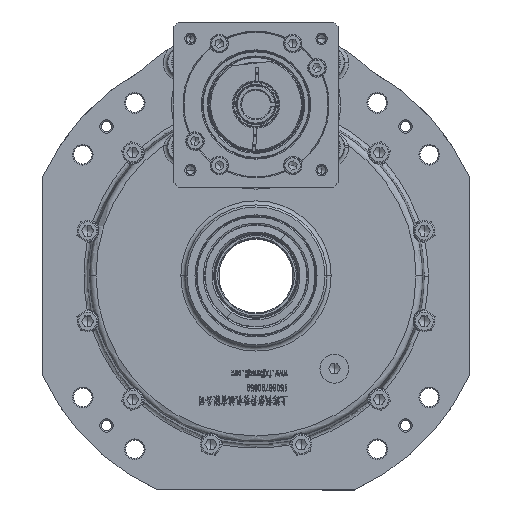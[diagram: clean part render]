
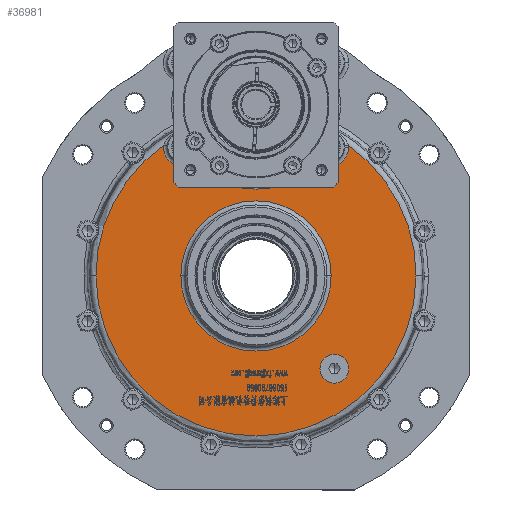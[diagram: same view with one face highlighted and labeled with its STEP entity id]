
A CAD part, top view. The second image highlights one B-rep face of the part: STEP entity #36981.
In plain terms, the highlighted planar face has unit normal (0, 0, 1).
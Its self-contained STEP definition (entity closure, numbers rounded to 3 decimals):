
#771 = EDGE_LOOP ( 'NONE', ( #45995, #67787 ) ) ;
#4049 = CARTESIAN_POINT ( 'NONE',  ( 30.553, -54.514, 45. ) ) ;
#5250 = CARTESIAN_POINT ( 'NONE',  ( -30.553, -54.514, 45. ) ) ;
#6674 = AXIS2_PLACEMENT_3D ( 'NONE', #54284, #71035, #33786 ) ;
#7417 = CARTESIAN_POINT ( 'NONE',  ( -29.185, -54.349, 45. ) ) ;
#7824 = AXIS2_PLACEMENT_3D ( 'NONE', #30683, #81595, #20760 ) ;
#10319 = CARTESIAN_POINT ( 'NONE',  ( 0., 0., 45. ) ) ;
#11256 = EDGE_CURVE ( 'NONE', #47929, #84857, #42282, .T. ) ;
#12171 = ORIENTED_EDGE ( 'NONE', *, *, #111836, .F. ) ;
#13889 = VERTEX_POINT ( 'NONE', #22547 ) ;
#15129 = DIRECTION ( 'NONE',  ( -1., 0., 0. ) ) ;
#15382 = CIRCLE ( 'NONE', #114674, 36.424 ) ;
#16288 = EDGE_CURVE ( 'NONE', #13889, #84018, #63792, .T. ) ;
#16468 = CARTESIAN_POINT ( 'NONE',  ( -29.972, -53.577, 45. ) ) ;
#17301 = DIRECTION ( 'NONE',  ( -0.119, -0.993, 0. ) ) ;
#18006 = CIRCLE ( 'NONE', #127917, 1.102 ) ;
#19890 = VERTEX_POINT ( 'NONE', #104744 ) ;
#20760 = DIRECTION ( 'NONE',  ( 0., 1., 0. ) ) ;
#22547 = CARTESIAN_POINT ( 'NONE',  ( 44.869, -63.316, 45. ) ) ;
#23753 = DIRECTION ( 'NONE',  ( 0., 1., 0. ) ) ;
#24396 = DIRECTION ( 'NONE',  ( 0., 0., -1. ) ) ;
#26179 = VERTEX_POINT ( 'NONE', #86575 ) ;
#26626 = DIRECTION ( 'NONE',  ( 0., 0., 1. ) ) ;
#28450 = CARTESIAN_POINT ( 'NONE',  ( 77.603, 0., 45. ) ) ;
#28459 = AXIS2_PLACEMENT_3D ( 'NONE', #109327, #26626, #107994 ) ;
#30683 = CARTESIAN_POINT ( 'NONE',  ( 0., 0., 45. ) ) ;
#31549 = AXIS2_PLACEMENT_3D ( 'NONE', #129824, #39242, #46536 ) ;
#32001 = ORIENTED_EDGE ( 'NONE', *, *, #91905, .F. ) ;
#33484 = DIRECTION ( 'NONE',  ( 1., 0., 0. ) ) ;
#33663 = VERTEX_POINT ( 'NONE', #48461 ) ;
#33786 = DIRECTION ( 'NONE',  ( 0.618, 0.786, 0. ) ) ;
#35022 = DIRECTION ( 'NONE',  ( 0., 0., 1. ) ) ;
#35454 = CARTESIAN_POINT ( 'NONE',  ( -77.603, 0., 45. ) ) ;
#36972 = CARTESIAN_POINT ( 'NONE',  ( 0., 0., 45. ) ) ;
#36981 = ADVANCED_FACE ( 'NONE', ( #72489, #92991, #70543 ), #60640, .F. ) ;
#39242 = DIRECTION ( 'NONE',  ( 0., 0., -1. ) ) ;
#40426 = AXIS2_PLACEMENT_3D ( 'NONE', #16468, #89233, #56849 ) ;
#41925 = CIRCLE ( 'NONE', #115862, 77.603 ) ;
#42282 = CIRCLE ( 'NONE', #52881, 5.5 ) ;
#43734 = ORIENTED_EDGE ( 'NONE', *, *, #115857, .F. ) ;
#44822 = EDGE_CURVE ( 'NONE', #84018, #19890, #18006, .T. ) ;
#45995 = ORIENTED_EDGE ( 'NONE', *, *, #102284, .T. ) ;
#46176 = ORIENTED_EDGE ( 'NONE', *, *, #44822, .F. ) ;
#46536 = DIRECTION ( 'NONE',  ( 1., 0., 0. ) ) ;
#47929 = VERTEX_POINT ( 'NONE', #58926 ) ;
#48461 = CARTESIAN_POINT ( 'NONE',  ( -36.424, 0., 45. ) ) ;
#49742 = CIRCLE ( 'NONE', #83496, 36.424 ) ;
#50718 = DIRECTION ( 'NONE',  ( 0., 0., -1. ) ) ;
#51705 = CIRCLE ( 'NONE', #28459, 40.898 ) ;
#52456 = CARTESIAN_POINT ( 'NONE',  ( -32.5, 45., 45. ) ) ;
#52881 = AXIS2_PLACEMENT_3D ( 'NONE', #83739, #104903, #33484 ) ;
#53072 = CIRCLE ( 'NONE', #40426, 1.102 ) ;
#54284 = CARTESIAN_POINT ( 'NONE',  ( 35.507, -62.5, 45. ) ) ;
#56792 = DIRECTION ( 'NONE',  ( 0., 1., 0. ) ) ;
#56796 = DIRECTION ( 'NONE',  ( -1., 0., 0. ) ) ;
#56849 = DIRECTION ( 'NONE',  ( 0.119, -0.993, 0. ) ) ;
#58705 = EDGE_CURVE ( 'NONE', #121727, #106540, #75941, .T. ) ;
#58926 = CARTESIAN_POINT ( 'NONE',  ( -43.5, 45., 45. ) ) ;
#60460 = CARTESIAN_POINT ( 'NONE',  ( -35.507, -62.5, 45. ) ) ;
#60640 = PLANE ( 'NONE',  #94411 ) ;
#63792 = CIRCLE ( 'NONE', #6674, 9.398 ) ;
#64905 = CIRCLE ( 'NONE', #7824, 77.603 ) ;
#67251 = CIRCLE ( 'NONE', #107382, 9.398 ) ;
#67623 = CARTESIAN_POINT ( 'NONE',  ( 29.972, -53.577, 45. ) ) ;
#67787 = ORIENTED_EDGE ( 'NONE', *, *, #11256, .T. ) ;
#67843 = DIRECTION ( 'NONE',  ( -0.618, 0.786, 0. ) ) ;
#70543 = FACE_OUTER_BOUND ( 'NONE', #79756, .T. ) ;
#71035 = DIRECTION ( 'NONE',  ( 0., 0., 1. ) ) ;
#71881 = ORIENTED_EDGE ( 'NONE', *, *, #94359, .F. ) ;
#72489 = FACE_BOUND ( 'NONE', #99140, .T. ) ;
#74267 = ORIENTED_EDGE ( 'NONE', *, *, #86468, .F. ) ;
#74658 = DIRECTION ( 'NONE',  ( 0., 0., 1. ) ) ;
#75941 = CIRCLE ( 'NONE', #118258, 77.603 ) ;
#77852 = CARTESIAN_POINT ( 'NONE',  ( -44.869, -63.316, 45. ) ) ;
#78526 = ORIENTED_EDGE ( 'NONE', *, *, #16288, .F. ) ;
#79756 = EDGE_LOOP ( 'NONE', ( #78526, #84715, #86119, #43734, #99529, #120155, #74267, #71881, #46176 ) ) ;
#81595 = DIRECTION ( 'NONE',  ( 0., 0., -1. ) ) ;
#82955 = EDGE_CURVE ( 'NONE', #106540, #13889, #41925, .T. ) ;
#83496 = AXIS2_PLACEMENT_3D ( 'NONE', #95184, #74658, #56796 ) ;
#83739 = CARTESIAN_POINT ( 'NONE',  ( -38., 45., 45. ) ) ;
#84018 = VERTEX_POINT ( 'NONE', #4049 ) ;
#84600 = DIRECTION ( 'NONE',  ( 0., 0., -1. ) ) ;
#84715 = ORIENTED_EDGE ( 'NONE', *, *, #82955, .F. ) ;
#84857 = VERTEX_POINT ( 'NONE', #52456 ) ;
#86119 = ORIENTED_EDGE ( 'NONE', *, *, #58705, .F. ) ;
#86468 = EDGE_CURVE ( 'NONE', #119342, #126244, #53072, .T. ) ;
#86575 = CARTESIAN_POINT ( 'NONE',  ( -44.905, -62.5, 45. ) ) ;
#89233 = DIRECTION ( 'NONE',  ( 0., 0., -1. ) ) ;
#90855 = DIRECTION ( 'NONE',  ( -0.618, 0.786, 0. ) ) ;
#91038 = DIRECTION ( 'NONE',  ( 0., -1., 0. ) ) ;
#91905 = EDGE_CURVE ( 'NONE', #33663, #117714, #15382, .T. ) ;
#92991 = FACE_BOUND ( 'NONE', #771, .T. ) ;
#94359 = EDGE_CURVE ( 'NONE', #19890, #119342, #51705, .T. ) ;
#94411 = AXIS2_PLACEMENT_3D ( 'NONE', #10319, #50718, #91038 ) ;
#95184 = CARTESIAN_POINT ( 'NONE',  ( 0., 0., 45. ) ) ;
#99140 = EDGE_LOOP ( 'NONE', ( #32001, #12171 ) ) ;
#99529 = ORIENTED_EDGE ( 'NONE', *, *, #113000, .F. ) ;
#100469 = EDGE_CURVE ( 'NONE', #126244, #26179, #67251, .T. ) ;
#100793 = DIRECTION ( 'NONE',  ( 0., 0., 1. ) ) ;
#101326 = CIRCLE ( 'NONE', #31549, 5.5 ) ;
#102284 = EDGE_CURVE ( 'NONE', #84857, #47929, #101326, .T. ) ;
#103526 = VERTEX_POINT ( 'NONE', #77852 ) ;
#104744 = CARTESIAN_POINT ( 'NONE',  ( 29.185, -54.349, 45. ) ) ;
#104841 = AXIS2_PLACEMENT_3D ( 'NONE', #128662, #109513, #67843 ) ;
#104903 = DIRECTION ( 'NONE',  ( 0., 0., -1. ) ) ;
#106540 = VERTEX_POINT ( 'NONE', #28450 ) ;
#107382 = AXIS2_PLACEMENT_3D ( 'NONE', #60460, #100793, #90855 ) ;
#107976 = DIRECTION ( 'NONE',  ( 0., 0., -1. ) ) ;
#107994 = DIRECTION ( 'NONE',  ( 0., 1., 0. ) ) ;
#109327 = CARTESIAN_POINT ( 'NONE',  ( 0., -83., 45. ) ) ;
#109513 = DIRECTION ( 'NONE',  ( 0., 0., 1. ) ) ;
#111836 = EDGE_CURVE ( 'NONE', #117714, #33663, #49742, .T. ) ;
#113000 = EDGE_CURVE ( 'NONE', #26179, #103526, #123912, .T. ) ;
#114674 = AXIS2_PLACEMENT_3D ( 'NONE', #125626, #35022, #15129 ) ;
#115857 = EDGE_CURVE ( 'NONE', #103526, #121727, #64905, .T. ) ;
#115862 = AXIS2_PLACEMENT_3D ( 'NONE', #36972, #24396, #56792 ) ;
#117714 = VERTEX_POINT ( 'NONE', #130273 ) ;
#118258 = AXIS2_PLACEMENT_3D ( 'NONE', #126258, #84600, #23753 ) ;
#119342 = VERTEX_POINT ( 'NONE', #7417 ) ;
#120155 = ORIENTED_EDGE ( 'NONE', *, *, #100469, .F. ) ;
#121727 = VERTEX_POINT ( 'NONE', #35454 ) ;
#123912 = CIRCLE ( 'NONE', #104841, 9.398 ) ;
#125626 = CARTESIAN_POINT ( 'NONE',  ( 0., 0., 45. ) ) ;
#126244 = VERTEX_POINT ( 'NONE', #5250 ) ;
#126258 = CARTESIAN_POINT ( 'NONE',  ( 0., 0., 45. ) ) ;
#127917 = AXIS2_PLACEMENT_3D ( 'NONE', #67623, #107976, #17301 ) ;
#128662 = CARTESIAN_POINT ( 'NONE',  ( -35.507, -62.5, 45. ) ) ;
#129824 = CARTESIAN_POINT ( 'NONE',  ( -38., 45., 45. ) ) ;
#130273 = CARTESIAN_POINT ( 'NONE',  ( 36.424, 0., 45. ) ) ;
